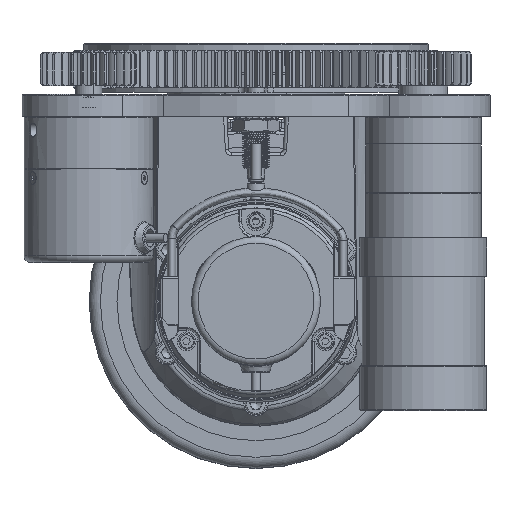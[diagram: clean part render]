
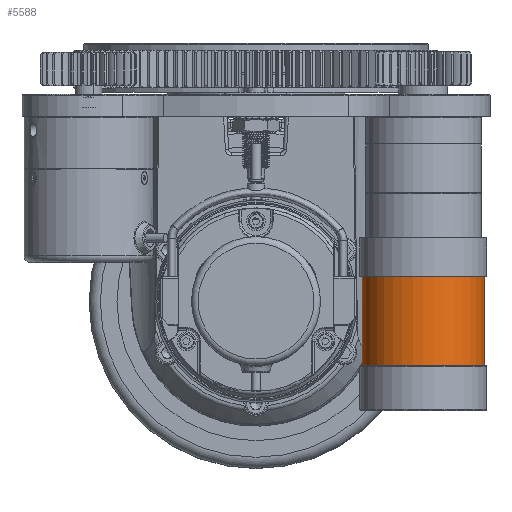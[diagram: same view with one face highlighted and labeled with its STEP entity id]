
A CAD part, top view. The second image highlights one B-rep face of the part: STEP entity #5588.
In plain terms, the highlighted cylindrical face has radius 27.5 mm (diameter 55 mm), a full revolution.
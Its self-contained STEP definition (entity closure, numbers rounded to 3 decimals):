
#1023 = DIRECTION ( 'NONE',  ( 0., 1., 0. ) ) ;
#1052 = DIRECTION ( 'NONE',  ( 0., 0., 1. ) ) ;
#5588 = ADVANCED_FACE ( 'NONE', ( #92462, #88582 ), #68293, .T. ) ;
#14723 = EDGE_LOOP ( 'NONE', ( #43439 ) ) ;
#15063 = CIRCLE ( 'NONE', #80193, 27.5 ) ;
#23642 = AXIS2_PLACEMENT_3D ( 'NONE', #48190, #65900, #41040 ) ;
#26566 = EDGE_CURVE ( 'NONE', #64693, #64693, #15063, .T. ) ;
#33857 = CARTESIAN_POINT ( 'NONE',  ( 26.714, 42.583, 303.452 ) ) ;
#40629 = AXIS2_PLACEMENT_3D ( 'NONE', #33857, #65489, #1052 ) ;
#41040 = DIRECTION ( 'NONE',  ( 0., 0., -1. ) ) ;
#43439 = ORIENTED_EDGE ( 'NONE', *, *, #66823, .F. ) ;
#48190 = CARTESIAN_POINT ( 'NONE',  ( 26.714, 42.583, 303.452 ) ) ;
#52015 = CARTESIAN_POINT ( 'NONE',  ( 26.714, 2.583, 330.952 ) ) ;
#62705 = CIRCLE ( 'NONE', #40629, 27.5 ) ;
#64693 = VERTEX_POINT ( 'NONE', #52015 ) ;
#65489 = DIRECTION ( 'NONE',  ( 0., 1., 0. ) ) ;
#65688 = EDGE_LOOP ( 'NONE', ( #70908 ) ) ;
#65900 = DIRECTION ( 'NONE',  ( 0., -1., 0. ) ) ;
#66823 = EDGE_CURVE ( 'NONE', #102593, #102593, #62705, .T. ) ;
#68293 = CYLINDRICAL_SURFACE ( 'NONE', #23642, 27.5 ) ;
#70908 = ORIENTED_EDGE ( 'NONE', *, *, #26566, .T. ) ;
#80193 = AXIS2_PLACEMENT_3D ( 'NONE', #82530, #1023, #89939 ) ;
#82530 = CARTESIAN_POINT ( 'NONE',  ( 26.714, 2.583, 303.452 ) ) ;
#88582 = FACE_OUTER_BOUND ( 'NONE', #65688, .T. ) ;
#89939 = DIRECTION ( 'NONE',  ( 0., 0., 1. ) ) ;
#92462 = FACE_OUTER_BOUND ( 'NONE', #14723, .T. ) ;
#101217 = CARTESIAN_POINT ( 'NONE',  ( 26.714, 42.583, 330.952 ) ) ;
#102593 = VERTEX_POINT ( 'NONE', #101217 ) ;
